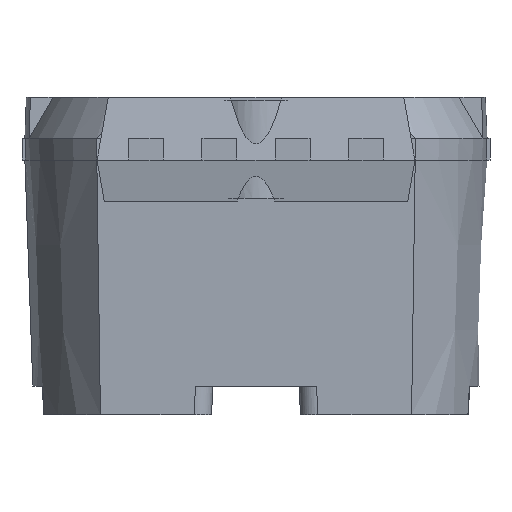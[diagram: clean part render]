
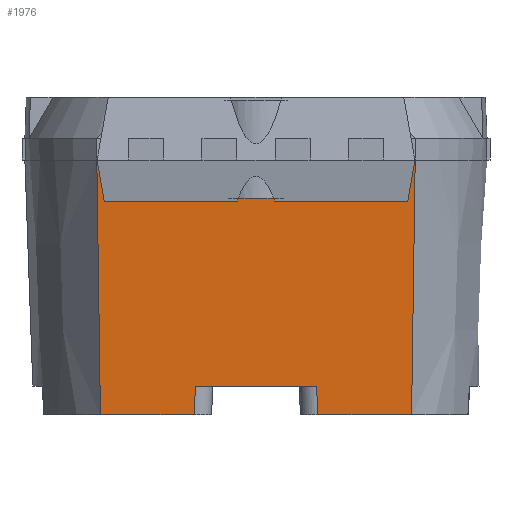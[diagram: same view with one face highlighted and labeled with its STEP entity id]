
A CAD part, front view. The second image highlights one B-rep face of the part: STEP entity #1976.
In plain terms, the highlighted planar face has unit normal (0, -0.999, -0.035) as drawn and (0, -0.999, 0.035) by its records, which use the part's own axes.
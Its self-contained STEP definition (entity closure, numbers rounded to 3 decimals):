
#88 = CARTESIAN_POINT ( 'NONE',  ( 0.335, -2.9, 0. ) ) ;
#96 = EDGE_CURVE ( 'NONE', #296, #2144, #4592, .T. ) ;
#101 = CARTESIAN_POINT ( 'NONE',  ( -2.755, -2.9, 0. ) ) ;
#234 = LINE ( 'NONE', #6075, #1918 ) ;
#277 = ORIENTED_EDGE ( 'NONE', *, *, #696, .F. ) ;
#296 = VERTEX_POINT ( 'NONE', #2058 ) ;
#459 = CARTESIAN_POINT ( 'NONE',  ( -2.755, -2.9, 0. ) ) ;
#547 = CARTESIAN_POINT ( 'NONE',  ( -2.693, -2.746, 4.41 ) ) ;
#549 = ORIENTED_EDGE ( 'NONE', *, *, #2927, .F. ) ;
#610 = CARTESIAN_POINT ( 'NONE',  ( -1.067, -2.746, 4.41 ) ) ;
#622 = VERTEX_POINT ( 'NONE', #1337 ) ;
#696 = EDGE_CURVE ( 'NONE', #2292, #5706, #1924, .T. ) ;
#711 = DIRECTION ( 'NONE',  ( 1., 0., 0. ) ) ;
#730 = CARTESIAN_POINT ( 'NONE',  ( -2.755, -2.9, 0. ) ) ;
#962 = VERTEX_POINT ( 'NONE', #4710 ) ;
#968 = VECTOR ( 'NONE', #4273, 1000. ) ;
#1048 = EDGE_CURVE ( 'NONE', #4525, #3350, #3811, .T. ) ;
#1054 = EDGE_CURVE ( 'NONE', #962, #622, #3886, .T. ) ;
#1094 = CARTESIAN_POINT ( 'NONE',  ( -2.755, -2.763, 3.91 ) ) ;
#1228 = CARTESIAN_POINT ( 'NONE',  ( -2.755, -2.9, 0. ) ) ;
#1235 = EDGE_CURVE ( 'NONE', #2292, #4677, #4395, .T. ) ;
#1248 = DIRECTION ( 'NONE',  ( -0.035, 0.035, 0.999 ) ) ;
#1254 = ORIENTED_EDGE ( 'NONE', *, *, #96, .F. ) ;
#1337 = CARTESIAN_POINT ( 'NONE',  ( 1.605, -2.9, 0. ) ) ;
#1357 = FACE_OUTER_BOUND ( 'NONE', #5656, .T. ) ;
#1392 = CARTESIAN_POINT ( 'NONE',  ( -2.734, -2.849, 1.47 ) ) ;
#1396 = CARTESIAN_POINT ( 'NONE',  ( 1.049, -2.764, 3.9 ) ) ;
#1414 = CARTESIAN_POINT ( 'NONE',  ( -2.755, -2.9, 0. ) ) ;
#1477 = CARTESIAN_POINT ( 'NONE',  ( -2.755, -2.9, 0. ) ) ;
#1517 = DIRECTION ( 'NONE',  ( 1., 0., 0. ) ) ;
#1520 = EDGE_CURVE ( 'NONE', #3411, #962, #2799, .T. ) ;
#1588 = VERTEX_POINT ( 'NONE', #2609 ) ;
#1596 = DIRECTION ( 'NONE',  ( 1., 0., 0. ) ) ;
#1666 = VERTEX_POINT ( 'NONE', #3831 ) ;
#1714 = CARTESIAN_POINT ( 'NONE',  ( -2.755, -2.9, 0. ) ) ;
#1774 = EDGE_CURVE ( 'NONE', #1666, #2144, #4611, .T. ) ;
#1860 = DIRECTION ( 'NONE',  ( 1., 0., 0. ) ) ;
#1897 = VECTOR ( 'NONE', #4971, 1000. ) ;
#1898 = CARTESIAN_POINT ( 'NONE',  ( -2.714, -2.797, 2.94 ) ) ;
#1918 = VECTOR ( 'NONE', #4617, 1000. ) ;
#1924 = LINE ( 'NONE', #2421, #3426 ) ;
#1976 = ADVANCED_FACE ( 'NONE', ( #1357 ), #5541, .T. ) ;
#1977 = VECTOR ( 'NONE', #3801, 1000. ) ;
#2014 = AXIS2_PLACEMENT_3D ( 'NONE', #1414, #2432, #4939 ) ;
#2052 = ORIENTED_EDGE ( 'NONE', *, *, #5955, .T. ) ;
#2058 = CARTESIAN_POINT ( 'NONE',  ( -1.05, -2.763, 3.91 ) ) ;
#2144 = VERTEX_POINT ( 'NONE', #4409 ) ;
#2223 = VECTOR ( 'NONE', #4565, 1000. ) ;
#2238 = VECTOR ( 'NONE', #2791, 1000. ) ;
#2292 = VERTEX_POINT ( 'NONE', #547 ) ;
#2333 = CARTESIAN_POINT ( 'NONE',  ( -2.755, -2.9, 0. ) ) ;
#2353 = EDGE_CURVE ( 'NONE', #622, #1588, #5438, .T. ) ;
#2394 = VECTOR ( 'NONE', #3438, 1000. ) ;
#2421 = CARTESIAN_POINT ( 'NONE',  ( -2.755, -2.746, 4.41 ) ) ;
#2432 = DIRECTION ( 'NONE',  ( 0., -0.999, 0.035 ) ) ;
#2586 = ORIENTED_EDGE ( 'NONE', *, *, #3948, .T. ) ;
#2609 = CARTESIAN_POINT ( 'NONE',  ( 2.205, -2.9, 0. ) ) ;
#2690 = LINE ( 'NONE', #5994, #1897 ) ;
#2791 = DIRECTION ( 'NONE',  ( 1., 0., 0. ) ) ;
#2799 = LINE ( 'NONE', #1228, #2238 ) ;
#2803 = VECTOR ( 'NONE', #1248, 1000. ) ;
#2927 = EDGE_CURVE ( 'NONE', #6280, #5333, #2928, .T. ) ;
#2928 = B_SPLINE_CURVE_WITH_KNOTS ( 'NONE', 3,
 ( #3995, #4988, #5475, #6473 ),
 .UNSPECIFIED., .F., .F.,
 ( 4, 4 ),
 ( 0., 0.004 ),
 .UNSPECIFIED. ) ;
#3031 = ORIENTED_EDGE ( 'NONE', *, *, #1048, .F. ) ;
#3151 = EDGE_CURVE ( 'NONE', #4068, #4339, #6522, .T. ) ;
#3220 = CARTESIAN_POINT ( 'NONE',  ( -1.605, -2.9, 0. ) ) ;
#3305 = EDGE_CURVE ( 'NONE', #4677, #3350, #234, .T. ) ;
#3350 = VERTEX_POINT ( 'NONE', #5115 ) ;
#3357 = ORIENTED_EDGE ( 'NONE', *, *, #5938, .F. ) ;
#3383 = CARTESIAN_POINT ( 'NONE',  ( -2.755, -2.9, 0. ) ) ;
#3411 = VERTEX_POINT ( 'NONE', #88 ) ;
#3426 = VECTOR ( 'NONE', #1860, 1000. ) ;
#3438 = DIRECTION ( 'NONE',  ( -0.035, -0.035, -0.999 ) ) ;
#3776 = LINE ( 'NONE', #2333, #4346 ) ;
#3800 = CARTESIAN_POINT ( 'NONE',  ( -0.935, -2.9, 0. ) ) ;
#3801 = DIRECTION ( 'NONE',  ( 1., 0., 0. ) ) ;
#3811 = LINE ( 'NONE', #730, #3977 ) ;
#3831 = CARTESIAN_POINT ( 'NONE',  ( 1.067, -2.746, 4.41 ) ) ;
#3870 = ORIENTED_EDGE ( 'NONE', *, *, #2353, .T. ) ;
#3886 = LINE ( 'NONE', #101, #968 ) ;
#3915 = CARTESIAN_POINT ( 'NONE',  ( -2.755, -2.9, 0. ) ) ;
#3939 = CARTESIAN_POINT ( 'NONE',  ( -0.335, -2.9, 0. ) ) ;
#3948 = EDGE_CURVE ( 'NONE', #4525, #4068, #2690, .T. ) ;
#3977 = VECTOR ( 'NONE', #5242, 1000. ) ;
#3995 = CARTESIAN_POINT ( 'NONE',  ( 2.693, -2.746, 4.41 ) ) ;
#4068 = VERTEX_POINT ( 'NONE', #3800 ) ;
#4273 = DIRECTION ( 'NONE',  ( 1., 0., 0. ) ) ;
#4280 = VECTOR ( 'NONE', #1596, 1000. ) ;
#4294 = ORIENTED_EDGE ( 'NONE', *, *, #1235, .T. ) ;
#4339 = VERTEX_POINT ( 'NONE', #3939 ) ;
#4346 = VECTOR ( 'NONE', #5827, 1000. ) ;
#4389 = CARTESIAN_POINT ( 'NONE',  ( 2.755, -2.9, 0. ) ) ;
#4395 = B_SPLINE_CURVE_WITH_KNOTS ( 'NONE', 3,
 ( #5873, #1898, #1392, #3915 ),
 .UNSPECIFIED., .F., .F.,
 ( 4, 4 ),
 ( 0., 0.004 ),
 .UNSPECIFIED. ) ;
#4409 = CARTESIAN_POINT ( 'NONE',  ( 1.05, -2.763, 3.91 ) ) ;
#4457 = LINE ( 'NONE', #5316, #1977 ) ;
#4475 = LINE ( 'NONE', #5257, #2803 ) ;
#4525 = VERTEX_POINT ( 'NONE', #3220 ) ;
#4565 = DIRECTION ( 'NONE',  ( 1., 0., 0. ) ) ;
#4592 = LINE ( 'NONE', #1094, #4280 ) ;
#4611 = LINE ( 'NONE', #1396, #2394 ) ;
#4617 = DIRECTION ( 'NONE',  ( 1., 0., 0. ) ) ;
#4622 = VECTOR ( 'NONE', #711, 1000. ) ;
#4677 = VERTEX_POINT ( 'NONE', #3383 ) ;
#4710 = CARTESIAN_POINT ( 'NONE',  ( 0.935, -2.9, 0. ) ) ;
#4751 = VECTOR ( 'NONE', #1517, 1000. ) ;
#4929 = CARTESIAN_POINT ( 'NONE',  ( 2.693, -2.746, 4.41 ) ) ;
#4939 = DIRECTION ( 'NONE',  ( 0., -0.035, -0.999 ) ) ;
#4971 = DIRECTION ( 'NONE',  ( 1., 0., 0. ) ) ;
#4988 = CARTESIAN_POINT ( 'NONE',  ( 2.714, -2.797, 2.94 ) ) ;
#5115 = CARTESIAN_POINT ( 'NONE',  ( -2.205, -2.9, 0. ) ) ;
#5242 = DIRECTION ( 'NONE',  ( -1., 0., 0. ) ) ;
#5257 = CARTESIAN_POINT ( 'NONE',  ( -0.916, -2.898, 0.064 ) ) ;
#5316 = CARTESIAN_POINT ( 'NONE',  ( -2.755, -2.746, 4.41 ) ) ;
#5326 = ORIENTED_EDGE ( 'NONE', *, *, #6124, .T. ) ;
#5333 = VERTEX_POINT ( 'NONE', #4389 ) ;
#5351 = ORIENTED_EDGE ( 'NONE', *, *, #3305, .T. ) ;
#5427 = EDGE_CURVE ( 'NONE', #1588, #5333, #3776, .T. ) ;
#5438 = LINE ( 'NONE', #459, #2223 ) ;
#5475 = CARTESIAN_POINT ( 'NONE',  ( 2.734, -2.849, 1.47 ) ) ;
#5541 = PLANE ( 'NONE',  #2014 ) ;
#5570 = ORIENTED_EDGE ( 'NONE', *, *, #1054, .T. ) ;
#5656 = EDGE_LOOP ( 'NONE', ( #3357, #6287, #1254, #2052, #277, #4294, #5351, #3031, #2586, #6186, #5326, #5663, #5570, #3870, #5782, #549 ) ) ;
#5663 = ORIENTED_EDGE ( 'NONE', *, *, #1520, .T. ) ;
#5706 = VERTEX_POINT ( 'NONE', #610 ) ;
#5782 = ORIENTED_EDGE ( 'NONE', *, *, #5427, .T. ) ;
#5827 = DIRECTION ( 'NONE',  ( 1., 0., 0. ) ) ;
#5873 = CARTESIAN_POINT ( 'NONE',  ( -2.693, -2.746, 4.41 ) ) ;
#5923 = LINE ( 'NONE', #1714, #4622 ) ;
#5938 = EDGE_CURVE ( 'NONE', #1666, #6280, #4457, .T. ) ;
#5955 = EDGE_CURVE ( 'NONE', #296, #5706, #4475, .T. ) ;
#5994 = CARTESIAN_POINT ( 'NONE',  ( -2.755, -2.9, 0. ) ) ;
#6075 = CARTESIAN_POINT ( 'NONE',  ( -2.755, -2.9, 0. ) ) ;
#6124 = EDGE_CURVE ( 'NONE', #4339, #3411, #5923, .T. ) ;
#6186 = ORIENTED_EDGE ( 'NONE', *, *, #3151, .T. ) ;
#6280 = VERTEX_POINT ( 'NONE', #4929 ) ;
#6287 = ORIENTED_EDGE ( 'NONE', *, *, #1774, .T. ) ;
#6473 = CARTESIAN_POINT ( 'NONE',  ( 2.755, -2.9, 0. ) ) ;
#6522 = LINE ( 'NONE', #1477, #4751 ) ;
